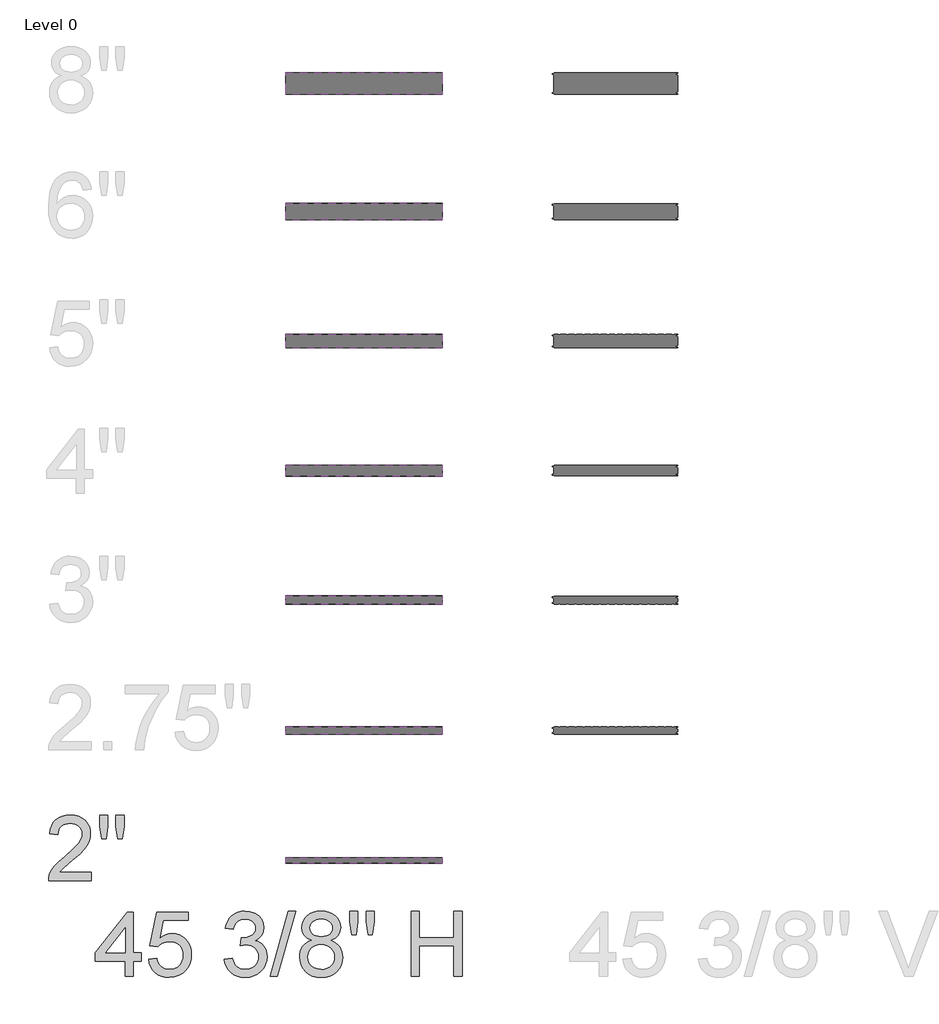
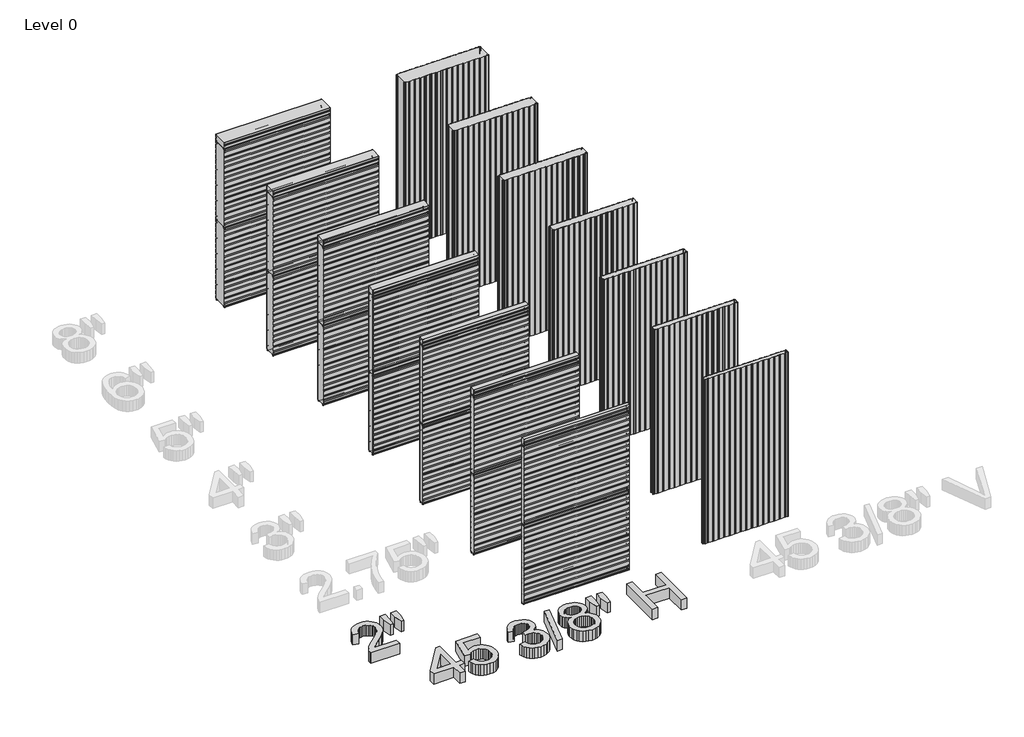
# One storey, part 1 of 4: 28 plates, 2 proxies.
"""IFC4 building model written with IfcOpenShell, lengths in millimetres."""

from ifc_helpers import new_model, si_unit, origin, origin_with_axes, place, context, project, spatial, polyline, outline, extrude, transform, mapped, element, save
from components import plate_fe6489eb, plate_808f4461, plate_084fd8b3, plate_065824d9, plate_b61ff593, plate_071a0944, plate_26d1fd30, plate_c64ea5ff, plate_2009623e, plate_06875e41, plate_88cddf2a, plate_8299596e, plate_3c78480a, plate_33ee314c, plate_da2054d2, plate_c02493ae, plate_cc50ff87, plate_5d8f1cdd, plate_7880e4a6, plate_c6cde25f, plate_6934a9da, plate_0feda06b, plate_243b0b14, plate_6ea44dff, plate_17dc52cc, plate_316c0869, plate_be0c3d2a, plate_9c2f475c, plate_20951801, plate_4e78df50, plate_782f856b, plate_b4f12861, plate_d803b4ad, plate_a32a1a45, plate_c57043c6, plate_b740a0b7, plate_3660ced9

model = new_model("IFC4")

# Units and contexts
model_context = context("Model", 3, world=origin())
ifc_project = project(units=[si_unit("LENGTHUNIT", "METRE", prefix="MILLI")], contexts=[model_context])

# Site, building, storey
site = spatial("IfcSite", under=ifc_project)
building = spatial("IfcBuilding", under=site)
storey = spatial("IfcBuildingStorey", under=building, Name="Level 0", Elevation=0.0)

# Proxies
placement = place(None, origin())
element("IfcBuildingElementProxy", 1, Name="24\" Arial", ObjectType="24\" Arial", at=placement, inside=storey, context=model_context, shape_type="SweptSolid", body=[
    extrude(outline(polyline([(-10988.6802578, 7087.4494842), (-10988.6802578, 7011.3077107), (-11388.4245688, 7011.3077107), (-11386.7515317, 7038.1134815), (-11380.2452767, 7063.8038944), (-11361.4700835, 7104.8304798), (-11333.9950978, 7144.6301715), (-11294.2511741, 7186.2887932), (-11238.6691665, 7232.8921687), (-11156.5044598, 7305.8737612), (-11107.2056357, 7359.7455531), (-11092.826812, 7381.7552845), (-11082.5562237, 7403.4675872), (-11076.3938707, 7424.882461), (-11074.339753, 7445.999906), (-11076.2776875, 7465.8672205), (-11082.0914912, 7484.1265606), (-11091.7811639, 7500.7779262), (-11105.3467057, 7515.8213174), (-11122.0352499, 7528.2807959), (-11141.0939299, 7537.1804233), (-11162.5227457, 7542.5201998), (-11186.3216973, 7544.3001253), (-11211.3940159, 7542.5620257), (-11233.8173592, 7537.347727), (-11253.5917273, 7528.6572292), (-11270.7171201, 7516.4905322), (-11284.570796, 7501.2566007), (-11294.5300136, 7483.3643993), (-11300.5947728, 7462.813928), (-11302.7650736, 7439.6051867), (-11378.9068471, 7449.1229084), (-11372.3587661, 7488.4299836), (-11360.447672, 7522.7737157), (-11343.1735648, 7552.1541046), (-11320.5364445, 7576.5711504), (-11293.0568115, 7595.7646028), (-11261.2551663, 7609.4742117), (-11225.1315087, 7617.699977), (-11184.6858388, 7620.4418988), (-11143.8776776, 7617.3932536), (-11107.5588324, 7608.2473179), (-11075.7293032, 7593.0040917), (-11048.38909, 7571.6635751), (-11026.4304791, 7545.8058586), (-11010.7457571, 7517.0110326), (-11001.3349239, 7485.2790972), (-10998.1979795, 7450.6100524), (-11001.5812321, 7414.1936134), (-11011.73099, 7378.4092105), (-11029.7440219, 7342.0113608), (-11056.7170964, 7303.754581), (-11099.7141477, 7258.0806705), (-11165.7991099, 7199.4314284), (-11253.3918923, 7126.1895857), (-11287.744919, 7087.4494842), (-10988.6802578, 7087.4494842)])), origin_with_axes(), (0.0, 0.0, 1.0), 152.4),
    extrude(outline(polyline([(-10893.9491841, 7401.5342999), (-10912.5384843, 7519.1673914), (-10912.5384843, 7620.4418988), (-10836.3967108, 7620.4418988), (-10836.3967108, 7519.1673914), (-10853.0527237, 7401.5342999), (-10893.9491841, 7401.5342999)])), origin_with_axes(), (0.0, 0.0, 1.0), 152.4),
    extrude(outline(polyline([(-10742.1117803, 7401.5342999), (-10760.2549372, 7519.1673914), (-10760.2549372, 7620.4418988), (-10684.1131637, 7620.4418988), (-10684.1131637, 7519.1673914), (-10701.9588919, 7401.5342999), (-10742.1117803, 7401.5342999)])), origin_with_axes(), (0.0, 0.0, 1.0), 152.4),
])
element("IfcBuildingElementProxy", 2, Name="24\" Arial", ObjectType="24\" Arial", at=placement, inside=storey, context=model_context, shape_type="SweptSolid", body=[
    extrude(outline(polyline([(-10675.6892581, 6117.5207326), (-10675.6892581, 6260.2865579), (-10951.7031871, 6260.2865579), (-10951.7031871, 6336.4283314), (-10656.6538147, 6717.137199), (-10599.5474846, 6717.137199), (-10599.5474846, 6336.4283314), (-10523.4057111, 6336.4283314), (-10523.4057111, 6260.2865579), (-10599.5474846, 6260.2865579), (-10599.5474846, 6117.5207326), (-10675.6892581, 6117.5207326)]), holes=[polyline([(-10675.6892581, 6336.4283314), (-10675.6892581, 6571.6945144), (-10858.0131142, 6336.4283314), (-10675.6892581, 6336.4283314)])]), origin_with_axes(), (0.0, 0.0, 1.0), 152.4),
    extrude(outline(polyline([(-10456.7816593, 6279.3220013), (-10380.6398857, 6288.839723), (-10374.9515599, 6264.362262), (-10366.660732, 6243.1286338), (-10355.7674021, 6225.1388386), (-10342.2715702, 6210.3928762), (-10326.2011202, 6198.909336), (-10307.5839361, 6190.7068073), (-10286.4200178, 6185.7852901), (-10262.7093654, 6184.1447844), (-10233.7100572, 6186.426621), (-10208.1311801, 6193.2721308), (-10185.9727343, 6204.6813138), (-10167.2347197, 6220.6541699), (-10152.3353956, 6240.400654), (-10141.6930213, 6263.1307208), (-10135.3075967, 6288.8443703), (-10133.1791218, 6317.5416024), (-10135.1728243, 6344.6633914), (-10141.1539316, 6368.7737137), (-10151.1224438, 6389.8725694), (-10165.0783609, 6407.9599585), (-10183.0681562, 6422.4689073), (-10205.1383028, 6432.8324421), (-10231.2888008, 6439.050563), (-10261.5196502, 6441.12327), (-10298.4565897, 6437.8143746), (-10328.3667737, 6427.8876883), (-10352.2540244, 6412.6816407), (-10371.1221641, 6393.5346616), (-10447.2639376, 6403.0523832), (-10380.6398857, 6717.137199), (-10085.5905134, 6717.137199), (-10085.5905134, 6640.9954255), (-10319.0721236, 6640.9954255), (-10351.6405775, 6473.2455807), (-10324.7697441, 6492.5040957), (-10297.2482852, 6506.2601778), (-10269.0762007, 6514.5138271), (-10240.2534908, 6517.2650435), (-10203.1724843, 6513.8539069), (-10169.1122391, 6503.6204972), (-10138.0727551, 6486.5648143), (-10110.0540324, 6462.6868582), (-10086.8592331, 6433.445889), (-10070.2915193, 6400.3011668), (-10060.3508911, 6363.2526916), (-10057.0373483, 6322.3004633), (-10060.020931, 6282.8539683), (-10068.971679, 6246.1586898), (-10083.8895924, 6212.2146276), (-10104.7746712, 6181.021782), (-10136.41366, 6149.0760696), (-10173.3320102, 6126.2577036), (-10215.5297216, 6112.5666841), (-10263.0067942, 6108.0030109), (-10302.2999275, 6110.935473), (-10337.7915488, 6119.7328593), (-10369.4816583, 6134.3951698), (-10397.3702559, 6154.9224045), (-10420.5743499, 6180.2921519), (-10438.2109484, 6209.4820005), (-10450.2800515, 6242.4919503), (-10456.7816593, 6279.3220013)])), origin_with_axes(), (0.0, 0.0, 1.0), 152.4),
    extrude(outline(polyline([(-9752.4702542, 6279.3220013), (-9676.3284807, 6288.839723), (-9659.2820925, 6240.9908643), (-9647.7892576, 6222.8941806), (-9634.3166623, 6208.6826606), (-9618.5575831, 6197.9473398), (-9600.2052965, 6190.2792534), (-9579.2598025, 6185.6784016), (-9555.7211012, 6184.1447844), (-9528.1345797, 6186.25467), (-9503.5223463, 6192.5843267), (-9481.8844009, 6203.1337545), (-9463.2207435, 6217.9029535), (-9448.1912943, 6235.7858603), (-9437.4559735, 6255.6764115), (-9431.014781, 6277.5746071), (-9428.8677168, 6301.4804471), (-9430.9961917, 6324.2476925), (-9437.3816163, 6344.9608202), (-9448.0239906, 6363.6198302), (-9462.9233147, 6380.2247226), (-9481.1036503, 6393.855327), (-9501.5890591, 6403.5914729), (-9524.3795411, 6409.4331605), (-9549.4750963, 6411.3803897), (-9573.5296507, 6409.2983881), (-9602.8635664, 6403.0523832), (-9594.3868455, 6479.1941568), (-9582.1922646, 6478.3018704), (-9536.574122, 6483.7671246), (-9495.7891974, 6500.1628874), (-9479.0030594, 6512.5619506), (-9467.0129607, 6527.8981232), (-9459.8189016, 6546.1714053), (-9457.4208819, 6567.3817968), (-9459.1589814, 6584.6001361), (-9464.3732801, 6600.2662688), (-9473.063778, 6614.380195), (-9485.2304749, 6626.9419146), (-9500.1390937, 6637.2543288), (-9517.0553568, 6644.620339), (-9535.9792644, 6649.0399451), (-9556.9108164, 6650.5131472), (-9577.7866005, 6649.0260032), (-9596.8406332, 6644.5645711), (-9614.0729144, 6637.128851), (-9629.4834443, 6626.718843), (-9642.6911421, 6613.3345468), (-9653.3149271, 6596.9759627), (-9661.3547994, 6577.6430905), (-9666.810759, 6555.3359303), (-9742.9525325, 6564.853652), (-9733.9274273, 6601.2050285), (-9720.5338365, 6633.225098), (-9702.7717602, 6660.9138606), (-9680.6411984, 6684.2713163), (-9654.8392497, 6702.8141432), (-9626.063013, 6716.0590196), (-9594.3124883, 6724.0059454), (-9559.5876756, 6726.6549207), (-9511.7202277, 6721.4313273), (-9467.7565328, 6705.7605473), (-9430.6894682, 6681.0367781), (-9403.5119113, 6648.6542172), (-9386.8373091, 6611.3454917), (-9381.2791083, 6571.8432288), (-9386.5584696, 6535.0364145), (-9402.3965533, 6501.6500314), (-9428.570288, 6473.2084021), (-9464.8566019, 6451.2358493), (-9439.4822072, 6443.2982181), (-9417.1936363, 6431.9773343), (-9397.9908892, 6417.2731979), (-9381.8739659, 6399.1858088), (-9369.121706, 6378.1613103), (-9360.0129489, 6354.6458456), (-9354.5476947, 6328.6394146), (-9352.7259433, 6300.1420175), (-9356.3694461, 6261.5134517), (-9367.2999546, 6225.9335312), (-9385.5174688, 6193.4022559), (-9411.0219886, 6163.9196258), (-9442.0940039, 6139.4561068), (-9477.0140042, 6121.9821646), (-9515.7819898, 6111.4977993), (-9558.3979604, 6108.0030109), (-9596.9149904, 6110.9865935), (-9632.0115891, 6119.9373416), (-9663.6877566, 6134.855255), (-9691.9434929, 6155.7403337), (-9715.6355559, 6181.365684), (-9733.6207039, 6210.504412), (-9745.8989366, 6243.1565178), (-9752.4702542, 6279.3220013)])), origin_with_axes(), (0.0, 0.0, 1.0), 152.4),
    extrude(outline(polyline([(-9324.1727782, 6117.5207326), (-9152.8537878, 6726.6549207), (-9084.1477343, 6726.6549207), (-9255.4667248, 6117.5207326), (-9324.1727782, 6117.5207326)])), origin_with_axes(), (0.0, 0.0, 1.0), 152.4),
    extrude(outline(polyline([(-8937.2179058, 6453.0204221), (-8977.984241, 6473.0968663), (-8993.8083828, 6485.8119476), (-9006.593174, 6500.3116018), (-9016.4501504, 6516.456409), (-9023.4908479, 6534.1069495), (-9029.1234058, 6573.9252305), (-9026.0561713, 6604.9786564), (-9016.8544677, 6633.4481696), (-9001.5182951, 6659.3337701), (-8980.0476534, 6682.6354579), (-8953.4742488, 6701.8939729), (-8922.8297874, 6715.650055), (-8888.1142693, 6723.9037043), (-8849.3276945, 6726.6549207), (-8810.3552267, 6723.8386417), (-8775.3794584, 6715.3898048), (-8744.4003897, 6701.3084099), (-8717.4180205, 6681.5944571), (-8695.5570035, 6657.8373314), (-8679.9419913, 6631.6264182), (-8670.572984, 6602.9617173), (-8667.4499816, 6571.8432288), (-8673.0081824, 6533.3076096), (-8689.6827846, 6500.0885302), (-8702.2352096, 6485.6864698), (-8717.6596814, 6473.0410984), (-8757.1247657, 6453.0204221), (-8732.0989203, 6442.3734004), (-8710.2611399, 6428.8729212), (-8691.6114245, 6412.5189844), (-8676.1497741, 6393.31159), (-8664.0156084, 6371.6782919), (-8655.3483472, 6348.046644), (-8650.1479905, 6322.4166464), (-8648.4145382, 6294.788299), (-8651.8535588, 6256.8103588), (-8662.1706204, 6221.9925995), (-8679.365723, 6190.3350213), (-8703.4388668, 6161.8376242), (-8733.1259791, 6138.2849809), (-8767.1629878, 6121.4616642), (-8805.5498926, 6111.3676742), (-8848.2866937, 6108.0030109), (-8891.0234948, 6111.3816162), (-8929.4103997, 6121.5174321), (-8963.4474083, 6138.4104586), (-8993.1345207, 6162.0606958), (-9017.2076644, 6190.7579279), (-9034.4027671, 6222.7919394), (-9044.7198287, 6258.1627304), (-9048.1588492, 6296.8703006), (-9046.3556871, 6325.7580731), (-9040.9462007, 6352.192058), (-9031.9303901, 6376.1722552), (-9019.3082553, 6397.6986648), (-9003.3586358, 6416.3809115), (-8984.360371, 6431.8286199), (-8962.313461, 6444.0417901), (-8937.2179058, 6453.0204221)]), holes=[polyline([(-8952.9816323, 6571.6945144), (-8951.2946533, 6554.2391616), (-8946.2337163, 6538.4568457), (-8937.7988214, 6524.3475669), (-8925.9899685, 6511.9113251), (-8910.9558719, 6501.7615672), (-8892.8452462, 6494.5117401), (-8871.6580914, 6490.1618439), (-8847.3944073, 6488.7118785), (-8823.7302282, 6490.1525492), (-8803.0031585, 6494.4745615), (-8785.2131982, 6501.6779153), (-8770.3603474, 6511.7626107), (-8758.6490883, 6523.9386023), (-8750.2839032, 6537.4158449), (-8745.2647921, 6552.1943385), (-8743.5917551, 6568.2740832), (-8745.32056, 6584.9812167), (-8750.5069748, 6600.3034474), (-8759.1509994, 6614.2407752), (-8771.2526338, 6626.7932002), (-8786.440092, 6637.170677), (-8804.3415881, 6644.5831604), (-8824.957122, 6649.0306505), (-8848.2866937, 6650.5131472), (-8871.7975111, 6649.0631818), (-8892.5106388, 6644.7132855), (-8910.4260769, 6637.4634585), (-8925.5438252, 6627.3137006), (-8937.5478658, 6615.1377089), (-8946.1221805, 6601.8091807), (-8951.2667694, 6587.3281159), (-8952.9816323, 6571.6945144)]), polyline([(-8972.0170757, 6299.5471599), (-8968.8383054, 6270.4177265), (-8959.3019944, 6242.2177581), (-8941.6979271, 6217.624114), (-8914.3158879, 6199.3136533), (-8881.5243624, 6187.9370016), (-8847.6918361, 6184.1447844), (-8820.1610826, 6186.1384868), (-8795.8648672, 6192.1195942), (-8774.8031901, 6202.0881064), (-8756.9760513, 6216.0440235), (-8742.7924152, 6233.0764698), (-8732.6612466, 6252.2745695), (-8726.5825455, 6273.6383228), (-8724.5563118, 6297.1677294), (-8726.647608, 6321.0735695), (-8732.9214968, 6342.8230507), (-8743.3779782, 6362.4161731), (-8758.0170521, 6379.8529366), (-8776.3275127, 6394.1666978), (-8797.7981544, 6404.3908129), (-8822.4289772, 6410.5252819), (-8850.2199809, 6412.5701049), (-8877.3464172, 6410.5531659), (-8901.3219671, 6404.5023487), (-8922.1466306, 6394.4176533), (-8939.8204078, 6380.2990798), (-8953.90645, 6363.1504504), (-8963.9679087, 6343.9755873), (-8970.0047839, 6322.7744904), (-8972.0170757, 6299.5471599)])]), origin_with_axes(), (0.0, 0.0, 1.0), 152.4),
    extrude(outline(polyline([(-8563.2011862, 6507.7473218), (-8581.7904864, 6625.3804133), (-8581.7904864, 6726.6549207), (-8505.6487129, 6726.6549207), (-8505.6487129, 6625.3804133), (-8522.3047258, 6507.7473218), (-8563.2011862, 6507.7473218)])), origin_with_axes(), (0.0, 0.0, 1.0), 152.4),
    extrude(outline(polyline([(-8411.3637824, 6507.7473218), (-8429.5069394, 6625.3804133), (-8429.5069394, 6726.6549207), (-8353.3651659, 6726.6549207), (-8353.3651659, 6625.3804133), (-8371.210894, 6507.7473218), (-8411.3637824, 6507.7473218)])), origin_with_axes(), (0.0, 0.0, 1.0), 152.4),
    extrude(outline(polyline([(-8010.727185, 6117.5207326), (-8010.727185, 6726.6549207), (-7934.5854115, 6726.6549207), (-7934.5854115, 6479.1941568), (-7610.9828741, 6479.1941568), (-7610.9828741, 6726.6549207), (-7534.8411005, 6726.6549207), (-7534.8411005, 6117.5207326), (-7610.9828741, 6117.5207326), (-7610.9828741, 6403.0523832), (-7934.5854115, 6403.0523832), (-7934.5854115, 6117.5207326), (-8010.727185, 6117.5207326)])), origin_with_axes(), (0.0, 0.0, 1.0), 152.4),
])

# Plates
plate_shape = plate_fe6489eb(model_context)
plate_2_shape = plate_808f4461(model_context)
plate_3_shape = plate_084fd8b3(model_context)
element("IfcPlate", 3, ObjectType="KIP-SLI-FLI-R19-CP-Hz-SL_SL : Hz 2\"", at=placement, inside=storey, context=model_context, shape_type="MappedRepresentation", body=[
    mapped(plate_shape, transform((-8448.7250935, 7224.2207172, 0.0), x_axis=(1.0, 0.0, 0.0), y_axis=(0.0, 1.0, 0.0), z_axis=(0.0, 0.0, 1.0))),
    mapped(plate_2_shape, transform((-8448.7250935, 7224.2207172, 0.0), x_axis=(1.0, 0.0, 0.0), y_axis=(0.0, 1.0, 0.0), z_axis=(0.0, 0.0, 1.0))),
    mapped(plate_3_shape, transform((-8448.7250935, 7224.2207172, 0.0), x_axis=(1.0, 0.0, 0.0), y_axis=(0.0, 1.0, 0.0), z_axis=(0.0, 0.0, 1.0))),
])
element("IfcPlate", 4, ObjectType="KIP-SLI-FLI-R19-CP-Hz-SL_SL : Hz 2\"", at=placement, inside=storey, context=model_context, shape_type="MappedRepresentation", body=[
    mapped(plate_shape, transform((-8448.7250935, 7224.2207172, 1152.525), x_axis=(1.0, 0.0, 0.0), y_axis=(0.0, 1.0, 0.0), z_axis=(0.0, 0.0, 1.0))),
    mapped(plate_2_shape, transform((-8448.7250935, 7224.2207172, 1152.525), x_axis=(1.0, 0.0, 0.0), y_axis=(0.0, 1.0, 0.0), z_axis=(0.0, 0.0, 1.0))),
    mapped(plate_3_shape, transform((-8448.7250935, 7224.2207172, 1152.525), x_axis=(1.0, 0.0, 0.0), y_axis=(0.0, 1.0, 0.0), z_axis=(0.0, 0.0, 1.0))),
])
plate_4_shape = plate_065824d9(model_context)
element("IfcPlate", 5, ObjectType="KIP-SLI-FLI-R19-CP-Hz-SL_SL : Hz 2\"", at=placement, inside=storey, context=model_context, shape_type="MappedRepresentation", body=[
    mapped(plate_4_shape, transform((-8448.7250935, 7224.2207172, 2305.05), x_axis=(1.0, 0.0, 0.0), y_axis=(0.0, 1.0, 0.0), z_axis=(0.0, 0.0, 1.0))),
])
plate_5_shape = plate_b61ff593(model_context)
plate_6_shape = plate_071a0944(model_context)
element("IfcPlate", 6, ObjectType="KIP-SLI-FLI-R19-CP-Hz-SL_SL : Hz 2.75\"", at=placement, inside=storey, context=model_context, shape_type="MappedRepresentation", body=[
    mapped(plate_5_shape, transform((-8448.7250935, 8443.4207172, 0.0), x_axis=(1.0, 0.0, 0.0), y_axis=(0.0, 1.0, 0.0), z_axis=(0.0, 0.0, 1.0))),
    mapped(plate_2_shape, transform((-8448.7250935, 8443.4207172, 0.0), x_axis=(1.0, 0.0, 0.0), y_axis=(0.0, 1.0, 0.0), z_axis=(0.0, 0.0, 1.0))),
    mapped(plate_6_shape, transform((-8448.7250935, 8443.4207172, 0.0), x_axis=(1.0, 0.0, 0.0), y_axis=(0.0, 1.0, 0.0), z_axis=(0.0, 0.0, 1.0))),
])
element("IfcPlate", 7, ObjectType="KIP-SLI-FLI-R19-CP-Hz-SL_SL : Hz 2.75\"", at=placement, inside=storey, context=model_context, shape_type="MappedRepresentation", body=[
    mapped(plate_5_shape, transform((-8448.7250935, 8443.4207172, 1152.525), x_axis=(1.0, 0.0, 0.0), y_axis=(0.0, 1.0, 0.0), z_axis=(0.0, 0.0, 1.0))),
    mapped(plate_2_shape, transform((-8448.7250935, 8443.4207172, 1152.525), x_axis=(1.0, 0.0, 0.0), y_axis=(0.0, 1.0, 0.0), z_axis=(0.0, 0.0, 1.0))),
    mapped(plate_6_shape, transform((-8448.7250935, 8443.4207172, 1152.525), x_axis=(1.0, 0.0, 0.0), y_axis=(0.0, 1.0, 0.0), z_axis=(0.0, 0.0, 1.0))),
])
plate_7_shape = plate_26d1fd30(model_context)
element("IfcPlate", 8, ObjectType="KIP-SLI-FLI-R19-CP-Hz-SL_SL : Hz 2.75\"", at=placement, inside=storey, context=model_context, shape_type="MappedRepresentation", body=[
    mapped(plate_7_shape, transform((-8448.7250935, 8443.4207172, 2305.05), x_axis=(1.0, 0.0, 0.0), y_axis=(0.0, 1.0, 0.0), z_axis=(0.0, 0.0, 1.0))),
])
plate_8_shape = plate_c64ea5ff(model_context)
plate_9_shape = plate_2009623e(model_context)
element("IfcPlate", 9, ObjectType="KIP-SLI-FLI-R19-CP-Hz-SL_SL : Hz 3\"", at=placement, inside=storey, context=model_context, shape_type="MappedRepresentation", body=[
    mapped(plate_8_shape, transform((-8448.7250935, 9662.6207172, 0.0), x_axis=(1.0, 0.0, 0.0), y_axis=(0.0, 1.0, 0.0), z_axis=(0.0, 0.0, 1.0))),
    mapped(plate_2_shape, transform((-8448.7250935, 9662.6207172, 0.0), x_axis=(1.0, 0.0, 0.0), y_axis=(0.0, 1.0, 0.0), z_axis=(0.0, 0.0, 1.0))),
    mapped(plate_9_shape, transform((-8448.7250935, 9662.6207172, 0.0), x_axis=(1.0, 0.0, 0.0), y_axis=(0.0, 1.0, 0.0), z_axis=(0.0, 0.0, 1.0))),
])
element("IfcPlate", 10, ObjectType="KIP-SLI-FLI-R19-CP-Hz-SL_SL : Hz 3\"", at=placement, inside=storey, context=model_context, shape_type="MappedRepresentation", body=[
    mapped(plate_8_shape, transform((-8448.7250935, 9662.6207172, 1152.525), x_axis=(1.0, 0.0, 0.0), y_axis=(0.0, 1.0, 0.0), z_axis=(0.0, 0.0, 1.0))),
    mapped(plate_2_shape, transform((-8448.7250935, 9662.6207172, 1152.525), x_axis=(1.0, 0.0, 0.0), y_axis=(0.0, 1.0, 0.0), z_axis=(0.0, 0.0, 1.0))),
    mapped(plate_9_shape, transform((-8448.7250935, 9662.6207172, 1152.525), x_axis=(1.0, 0.0, 0.0), y_axis=(0.0, 1.0, 0.0), z_axis=(0.0, 0.0, 1.0))),
])
plate_10_shape = plate_06875e41(model_context)
element("IfcPlate", 11, ObjectType="KIP-SLI-FLI-R19-CP-Hz-SL_SL : Hz 3\"", at=placement, inside=storey, context=model_context, shape_type="MappedRepresentation", body=[
    mapped(plate_10_shape, transform((-8448.7250935, 9662.6207172, 2305.05), x_axis=(1.0, 0.0, 0.0), y_axis=(0.0, 1.0, 0.0), z_axis=(0.0, 0.0, 1.0))),
])
plate_11_shape = plate_88cddf2a(model_context)
plate_12_shape = plate_8299596e(model_context)
element("IfcPlate", 12, ObjectType="KIP-SLI-FLI-R19-CP-Hz-SL_SL : Hz 4\"", at=placement, inside=storey, context=model_context, shape_type="MappedRepresentation", body=[
    mapped(plate_11_shape, transform((-8448.7250935, 10881.8207172, 0.0), x_axis=(1.0, 0.0, 0.0), y_axis=(0.0, 1.0, 0.0), z_axis=(0.0, 0.0, 1.0))),
    mapped(plate_2_shape, transform((-8448.7250935, 10881.8207172, 0.0), x_axis=(1.0, 0.0, 0.0), y_axis=(0.0, 1.0, 0.0), z_axis=(0.0, 0.0, 1.0))),
    mapped(plate_12_shape, transform((-8448.7250935, 10881.8207172, 0.0), x_axis=(1.0, 0.0, 0.0), y_axis=(0.0, 1.0, 0.0), z_axis=(0.0, 0.0, 1.0))),
])
element("IfcPlate", 13, ObjectType="KIP-SLI-FLI-R19-CP-Hz-SL_SL : Hz 4\"", at=placement, inside=storey, context=model_context, shape_type="MappedRepresentation", body=[
    mapped(plate_11_shape, transform((-8448.7250935, 10881.8207172, 1152.525), x_axis=(1.0, 0.0, 0.0), y_axis=(0.0, 1.0, 0.0), z_axis=(0.0, 0.0, 1.0))),
    mapped(plate_2_shape, transform((-8448.7250935, 10881.8207172, 1152.525), x_axis=(1.0, 0.0, 0.0), y_axis=(0.0, 1.0, 0.0), z_axis=(0.0, 0.0, 1.0))),
    mapped(plate_12_shape, transform((-8448.7250935, 10881.8207172, 1152.525), x_axis=(1.0, 0.0, 0.0), y_axis=(0.0, 1.0, 0.0), z_axis=(0.0, 0.0, 1.0))),
])
plate_13_shape = plate_3c78480a(model_context)
element("IfcPlate", 14, ObjectType="KIP-SLI-FLI-R19-CP-Hz-SL_SL : Hz 4\"", at=placement, inside=storey, context=model_context, shape_type="MappedRepresentation", body=[
    mapped(plate_13_shape, transform((-8448.7250935, 10881.8207172, 2305.05), x_axis=(1.0, 0.0, 0.0), y_axis=(0.0, 1.0, 0.0), z_axis=(0.0, 0.0, 1.0))),
])
plate_14_shape = plate_33ee314c(model_context)
plate_15_shape = plate_da2054d2(model_context)
element("IfcPlate", 15, ObjectType="KIP-SLI-FLI-R19-CP-Hz-SL_SL : Hz 5\"", at=placement, inside=storey, context=model_context, shape_type="MappedRepresentation", body=[
    mapped(plate_14_shape, transform((-8448.7250935, 12101.0207172, 0.0), x_axis=(1.0, 0.0, 0.0), y_axis=(0.0, 1.0, 0.0), z_axis=(0.0, 0.0, 1.0))),
    mapped(plate_2_shape, transform((-8448.7250935, 12101.0207172, 0.0), x_axis=(1.0, 0.0, 0.0), y_axis=(0.0, 1.0, 0.0), z_axis=(0.0, 0.0, 1.0))),
    mapped(plate_15_shape, transform((-8448.7250935, 12101.0207172, 0.0), x_axis=(1.0, 0.0, 0.0), y_axis=(0.0, 1.0, 0.0), z_axis=(0.0, 0.0, 1.0))),
])
element("IfcPlate", 16, ObjectType="KIP-SLI-FLI-R19-CP-Hz-SL_SL : Hz 5\"", at=placement, inside=storey, context=model_context, shape_type="MappedRepresentation", body=[
    mapped(plate_14_shape, transform((-8448.7250935, 12101.0207172, 1152.525), x_axis=(1.0, 0.0, 0.0), y_axis=(0.0, 1.0, 0.0), z_axis=(0.0, 0.0, 1.0))),
    mapped(plate_2_shape, transform((-8448.7250935, 12101.0207172, 1152.525), x_axis=(1.0, 0.0, 0.0), y_axis=(0.0, 1.0, 0.0), z_axis=(0.0, 0.0, 1.0))),
    mapped(plate_15_shape, transform((-8448.7250935, 12101.0207172, 1152.525), x_axis=(1.0, 0.0, 0.0), y_axis=(0.0, 1.0, 0.0), z_axis=(0.0, 0.0, 1.0))),
])
plate_16_shape = plate_c02493ae(model_context)
element("IfcPlate", 17, ObjectType="KIP-SLI-FLI-R19-CP-Hz-SL_SL : Hz 5\"", at=placement, inside=storey, context=model_context, shape_type="MappedRepresentation", body=[
    mapped(plate_16_shape, transform((-8448.7250935, 12101.0207172, 2305.05), x_axis=(1.0, 0.0, 0.0), y_axis=(0.0, 1.0, 0.0), z_axis=(0.0, 0.0, 1.0))),
])
plate_17_shape = plate_cc50ff87(model_context)
plate_18_shape = plate_5d8f1cdd(model_context)
element("IfcPlate", 18, ObjectType="KIP-SLI-FLI-R19-CP-Hz-SL_SL : Hz 6\"", at=placement, inside=storey, context=model_context, shape_type="MappedRepresentation", body=[
    mapped(plate_17_shape, transform((-8448.7250935, 13320.2207172, 0.0), x_axis=(1.0, 0.0, 0.0), y_axis=(0.0, 1.0, 0.0), z_axis=(0.0, 0.0, 1.0))),
    mapped(plate_2_shape, transform((-8448.7250935, 13320.2207172, 0.0), x_axis=(1.0, 0.0, 0.0), y_axis=(0.0, 1.0, 0.0), z_axis=(0.0, 0.0, 1.0))),
    mapped(plate_18_shape, transform((-8448.7250935, 13320.2207172, 0.0), x_axis=(1.0, 0.0, 0.0), y_axis=(0.0, 1.0, 0.0), z_axis=(0.0, 0.0, 1.0))),
])
element("IfcPlate", 19, ObjectType="KIP-SLI-FLI-R19-CP-Hz-SL_SL : Hz 6\"", at=placement, inside=storey, context=model_context, shape_type="MappedRepresentation", body=[
    mapped(plate_17_shape, transform((-8448.7250935, 13320.2207172, 1152.525), x_axis=(1.0, 0.0, 0.0), y_axis=(0.0, 1.0, 0.0), z_axis=(0.0, 0.0, 1.0))),
    mapped(plate_2_shape, transform((-8448.7250935, 13320.2207172, 1152.525), x_axis=(1.0, 0.0, 0.0), y_axis=(0.0, 1.0, 0.0), z_axis=(0.0, 0.0, 1.0))),
    mapped(plate_18_shape, transform((-8448.7250935, 13320.2207172, 1152.525), x_axis=(1.0, 0.0, 0.0), y_axis=(0.0, 1.0, 0.0), z_axis=(0.0, 0.0, 1.0))),
])
plate_19_shape = plate_7880e4a6(model_context)
element("IfcPlate", 20, ObjectType="KIP-SLI-FLI-R19-CP-Hz-SL_SL : Hz 6\"", at=placement, inside=storey, context=model_context, shape_type="MappedRepresentation", body=[
    mapped(plate_19_shape, transform((-8448.7250935, 13320.2207172, 2305.05), x_axis=(1.0, 0.0, 0.0), y_axis=(0.0, 1.0, 0.0), z_axis=(0.0, 0.0, 1.0))),
])
plate_20_shape = plate_c6cde25f(model_context)
plate_21_shape = plate_6934a9da(model_context)
element("IfcPlate", 21, ObjectType="KIP-SLI-FLI-R19-CP-Hz-SL_SL : Hz 8\"", at=placement, inside=storey, context=model_context, shape_type="MappedRepresentation", body=[
    mapped(plate_20_shape, transform((-8448.7250935, 14539.4207172, 0.0), x_axis=(1.0, 0.0, 0.0), y_axis=(0.0, 1.0, 0.0), z_axis=(0.0, 0.0, 1.0))),
    mapped(plate_2_shape, transform((-8448.7250935, 14539.4207172, 0.0), x_axis=(1.0, 0.0, 0.0), y_axis=(0.0, 1.0, 0.0), z_axis=(0.0, 0.0, 1.0))),
    mapped(plate_21_shape, transform((-8448.7250935, 14539.4207172, 0.0), x_axis=(1.0, 0.0, 0.0), y_axis=(0.0, 1.0, 0.0), z_axis=(0.0, 0.0, 1.0))),
])
element("IfcPlate", 22, ObjectType="KIP-SLI-FLI-R19-CP-Hz-SL_SL : Hz 8\"", at=placement, inside=storey, context=model_context, shape_type="MappedRepresentation", body=[
    mapped(plate_20_shape, transform((-8448.7250935, 14539.4207172, 1152.525), x_axis=(1.0, 0.0, 0.0), y_axis=(0.0, 1.0, 0.0), z_axis=(0.0, 0.0, 1.0))),
    mapped(plate_2_shape, transform((-8448.7250935, 14539.4207172, 1152.525), x_axis=(1.0, 0.0, 0.0), y_axis=(0.0, 1.0, 0.0), z_axis=(0.0, 0.0, 1.0))),
    mapped(plate_21_shape, transform((-8448.7250935, 14539.4207172, 1152.525), x_axis=(1.0, 0.0, 0.0), y_axis=(0.0, 1.0, 0.0), z_axis=(0.0, 0.0, 1.0))),
])
plate_22_shape = plate_0feda06b(model_context)
element("IfcPlate", 23, ObjectType="KIP-SLI-FLI-R19-CP-Hz-SL_SL : Hz 8\"", at=placement, inside=storey, context=model_context, shape_type="MappedRepresentation", body=[
    mapped(plate_22_shape, transform((-8448.7250935, 14539.4207172, 2305.05), x_axis=(1.0, 0.0, 0.0), y_axis=(0.0, 1.0, 0.0), z_axis=(0.0, 0.0, 1.0))),
])
plate_23_shape = plate_243b0b14(model_context)
plate_24_shape = plate_6ea44dff(model_context)
plate_25_shape = plate_17dc52cc(model_context)
element("IfcPlate", 24, ObjectType="KIP-SLI-FLI-R19-CP-Vt-SL_SL : Vt 2\"", at=placement, inside=storey, context=model_context, shape_type="MappedRepresentation", body=[
    mapped(plate_23_shape, transform((-6102.6788834, 7224.2207172, 0.0), x_axis=(1.0, 0.0, 0.0), y_axis=(0.0, 1.0, 0.0), z_axis=(0.0, 0.0, 1.0))),
    mapped(plate_24_shape, transform((-6102.6788834, 7224.2207172, 0.0), x_axis=(1.0, 0.0, 0.0), y_axis=(0.0, 1.0, 0.0), z_axis=(0.0, 0.0, 1.0))),
    mapped(plate_25_shape, transform((-6102.6788834, 7224.2207172, 0.0), x_axis=(1.0, 0.0, 0.0), y_axis=(0.0, 1.0, 0.0), z_axis=(0.0, 0.0, 1.0))),
])
plate_26_shape = plate_316c0869(model_context)
plate_27_shape = plate_be0c3d2a(model_context)
element("IfcPlate", 25, ObjectType="KIP-SLI-FLI-R19-CP-Vt-SL_SL : Vt 2.75\"", at=placement, inside=storey, context=model_context, shape_type="MappedRepresentation", body=[
    mapped(plate_26_shape, transform((-6102.6788834, 8443.4207172, 0.0), x_axis=(1.0, 0.0, 0.0), y_axis=(0.0, 1.0, 0.0), z_axis=(0.0, 0.0, 1.0))),
    mapped(plate_24_shape, transform((-6102.6788834, 8443.4207172, 0.0), x_axis=(1.0, 0.0, 0.0), y_axis=(0.0, 1.0, 0.0), z_axis=(0.0, 0.0, 1.0))),
    mapped(plate_27_shape, transform((-6102.6788834, 8443.4207172, 0.0), x_axis=(1.0, 0.0, 0.0), y_axis=(0.0, 1.0, 0.0), z_axis=(0.0, 0.0, 1.0))),
])
plate_28_shape = plate_9c2f475c(model_context)
plate_29_shape = plate_20951801(model_context)
element("IfcPlate", 26, ObjectType="KIP-SLI-FLI-R19-CP-Vt-SL_SL : Vt 3\"", at=placement, inside=storey, context=model_context, shape_type="MappedRepresentation", body=[
    mapped(plate_28_shape, transform((-6102.6788834, 9662.6207172, 0.0), x_axis=(1.0, 0.0, 0.0), y_axis=(0.0, 1.0, 0.0), z_axis=(0.0, 0.0, 1.0))),
    mapped(plate_24_shape, transform((-6102.6788834, 9662.6207172, 0.0), x_axis=(1.0, 0.0, 0.0), y_axis=(0.0, 1.0, 0.0), z_axis=(0.0, 0.0, 1.0))),
    mapped(plate_29_shape, transform((-6102.6788834, 9662.6207172, 0.0), x_axis=(1.0, 0.0, 0.0), y_axis=(0.0, 1.0, 0.0), z_axis=(0.0, 0.0, 1.0))),
])
plate_30_shape = plate_4e78df50(model_context)
plate_31_shape = plate_782f856b(model_context)
element("IfcPlate", 27, ObjectType="KIP-SLI-FLI-R19-CP-Vt-SL_SL : Vt 4\"", at=placement, inside=storey, context=model_context, shape_type="MappedRepresentation", body=[
    mapped(plate_30_shape, transform((-6102.6788834, 10881.8207172, 0.0), x_axis=(1.0, 0.0, 0.0), y_axis=(0.0, 1.0, 0.0), z_axis=(0.0, 0.0, 1.0))),
    mapped(plate_24_shape, transform((-6102.6788834, 10881.8207172, 0.0), x_axis=(1.0, 0.0, 0.0), y_axis=(0.0, 1.0, 0.0), z_axis=(0.0, 0.0, 1.0))),
    mapped(plate_31_shape, transform((-6102.6788834, 10881.8207172, 0.0), x_axis=(1.0, 0.0, 0.0), y_axis=(0.0, 1.0, 0.0), z_axis=(0.0, 0.0, 1.0))),
])
plate_32_shape = plate_b4f12861(model_context)
plate_33_shape = plate_d803b4ad(model_context)
element("IfcPlate", 28, ObjectType="KIP-SLI-FLI-R19-CP-Vt-SL_SL : Vt 5\"", at=placement, inside=storey, context=model_context, shape_type="MappedRepresentation", body=[
    mapped(plate_32_shape, transform((-6102.6788834, 12101.0207172, 0.0), x_axis=(1.0, 0.0, 0.0), y_axis=(0.0, 1.0, 0.0), z_axis=(0.0, 0.0, 1.0))),
    mapped(plate_24_shape, transform((-6102.6788834, 12101.0207172, 0.0), x_axis=(1.0, 0.0, 0.0), y_axis=(0.0, 1.0, 0.0), z_axis=(0.0, 0.0, 1.0))),
    mapped(plate_33_shape, transform((-6102.6788834, 12101.0207172, 0.0), x_axis=(1.0, 0.0, 0.0), y_axis=(0.0, 1.0, 0.0), z_axis=(0.0, 0.0, 1.0))),
])
plate_34_shape = plate_a32a1a45(model_context)
plate_35_shape = plate_c57043c6(model_context)
element("IfcPlate", 29, ObjectType="KIP-SLI-FLI-R19-CP-Vt-SL_SL : Vt 6\"", at=placement, inside=storey, context=model_context, shape_type="MappedRepresentation", body=[
    mapped(plate_34_shape, transform((-6102.6788834, 13320.2207172, 0.0), x_axis=(1.0, 0.0, 0.0), y_axis=(0.0, 1.0, 0.0), z_axis=(0.0, 0.0, 1.0))),
    mapped(plate_24_shape, transform((-6102.6788834, 13320.2207172, 0.0), x_axis=(1.0, 0.0, 0.0), y_axis=(0.0, 1.0, 0.0), z_axis=(0.0, 0.0, 1.0))),
    mapped(plate_35_shape, transform((-6102.6788834, 13320.2207172, 0.0), x_axis=(1.0, 0.0, 0.0), y_axis=(0.0, 1.0, 0.0), z_axis=(0.0, 0.0, 1.0))),
])
plate_36_shape = plate_b740a0b7(model_context)
plate_37_shape = plate_3660ced9(model_context)
element("IfcPlate", 30, ObjectType="KIP-SLI-FLI-R19-CP-Vt-SL_SL : Vt 8\"", at=placement, inside=storey, context=model_context, shape_type="MappedRepresentation", body=[
    mapped(plate_36_shape, transform((-6102.6788834, 14539.4207172, 0.0), x_axis=(1.0, 0.0, 0.0), y_axis=(0.0, 1.0, 0.0), z_axis=(0.0, 0.0, 1.0))),
    mapped(plate_24_shape, transform((-6102.6788834, 14539.4207172, 0.0), x_axis=(1.0, 0.0, 0.0), y_axis=(0.0, 1.0, 0.0), z_axis=(0.0, 0.0, 1.0))),
    mapped(plate_37_shape, transform((-6102.6788834, 14539.4207172, 0.0), x_axis=(1.0, 0.0, 0.0), y_axis=(0.0, 1.0, 0.0), z_axis=(0.0, 0.0, 1.0))),
])

save(model, "model.ifc")
